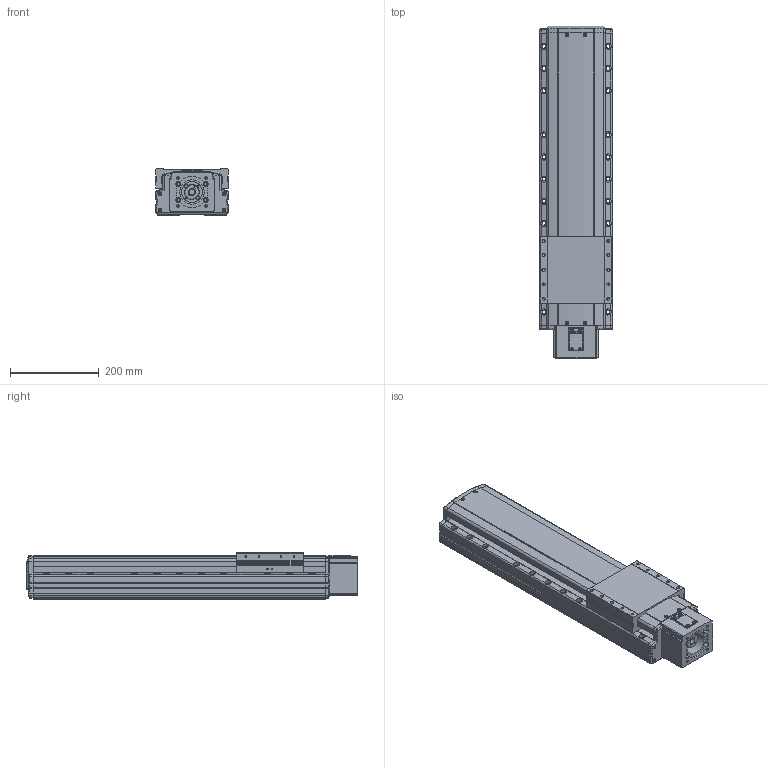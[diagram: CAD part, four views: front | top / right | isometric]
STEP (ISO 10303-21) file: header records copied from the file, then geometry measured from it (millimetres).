
FILE_DESCRIPTION(('STEP AP214'),'1');
FILE_NAME('Z:/Web/3D/PSA165/STP/PSA165-400 (3D)/PSA165ㅁㅁ-400S.stp','2014-06-23T11:04:39',(' '),(' '),'Spatial InterOp 3D',' ',' ');
FILE_SCHEMA(('automotive_design'));
Length unit declared in the file: millimetre
Products named in the file (67): 스크루 : Round - M4.0 x 12.0; RRCV-PA160; BASE; 스크루 : Round - M4.0 x 10.0; RN15; Screw 20; SLIDE; FRCV; 스크루 : Socket - M6.0 x 25.0; MTHZ-SAN150-80A; SSFX-SAN65; CPLCV-SAN65; 스크루 : Round - M3.0 x 6.0; SDWA47C(2); SDWA47C(3-1); SDWA47C(3); SDWA47C(1); SDWA47C(4); SDWA47C(5)
Bounding box: 165 x 749.8 x 104 mm (x, y, z)
Volume: 9967344.4 mm3; surface area: 774477.7 mm2
Topology: 67 solids, 67 shells, 2968 faces, 7907 edges, 5085 vertices
Faces by surface type: plane 1380, cylinder 1126, cone 353, sphere 50, bspline 35, torus 24
Entity records: 121899 total; most frequent: CARTESIAN_POINT 21405, DIRECTION 16459, ORIENTED_EDGE 15518, EDGE_CURVE 7759, AXIS2_PLACEMENT_3D 5949, VERTEX_POINT 5085, LINE 4561, VECTOR 4561
